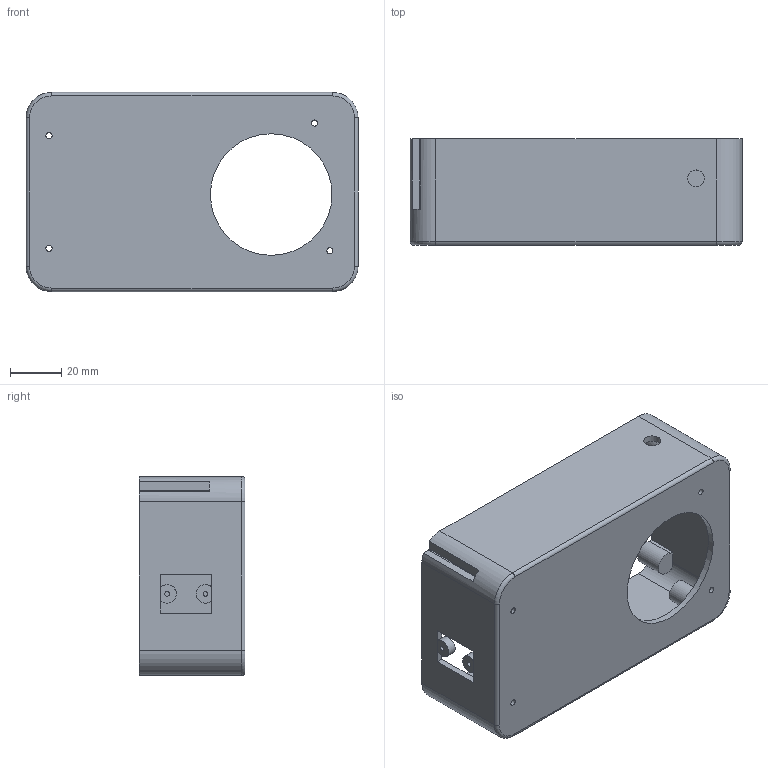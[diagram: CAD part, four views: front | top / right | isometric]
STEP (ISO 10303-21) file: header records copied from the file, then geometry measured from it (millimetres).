
FILE_DESCRIPTION(('Open CASCADE Model'),'2;1');
FILE_NAME('Open CASCADE Shape Model','2026-10-20T15:14:19',('Author'),( 'Open CASCADE'),'Open CASCADE STEP processor 7.8','Open CASCADE 7.8' ,'Unknown');
FILE_SCHEMA(('AUTOMOTIVE_DESIGN { 1 0 10303 214 1 1 1 1 }'));
Length unit declared in the file: millimetre
Products named in the file (1): Open CASCADE STEP translator 7.8 4
Bounding box: 130 x 41.5 x 78 mm (x, y, z)
Volume: 65701.9 mm3; surface area: 50938.6 mm2
Topology: 1 solids, 1 shells, 90 faces, 217 edges, 142 vertices
Faces by surface type: plane 47, cylinder 39, torus 4
Full cylindrical faces by diameter (mm): 1.8 x10, 2.4 x4, 6.6 x1, 7.2 x2, 9 x4, 47.6 x1
Entity records: 5596 total; most frequent: CARTESIAN_POINT 1177, DIRECTION 821, ORIENTED_EDGE 434, PCURVE 434, DEFINITIONAL_REPRESENTATION 434, LINE 376, VECTOR 376, EDGE_CURVE 217
